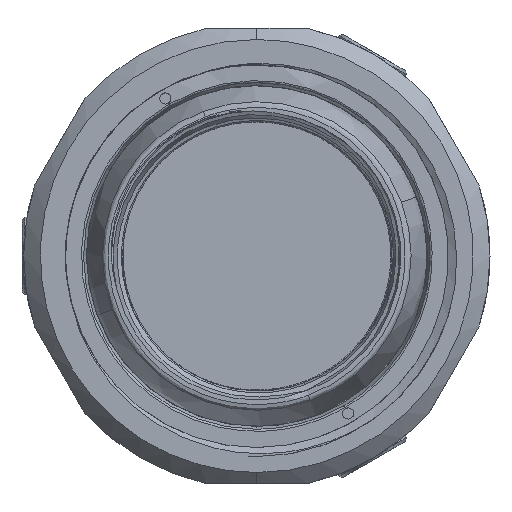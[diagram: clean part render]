
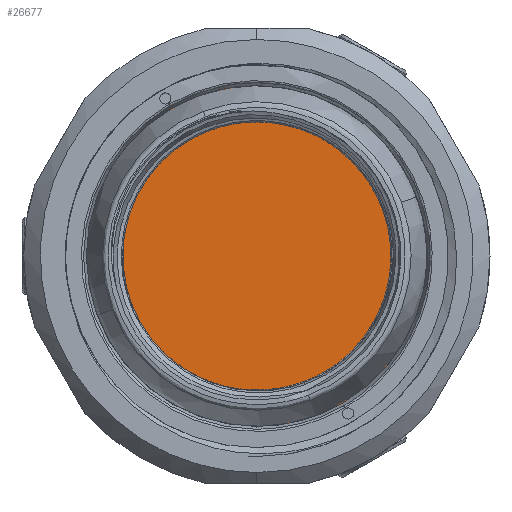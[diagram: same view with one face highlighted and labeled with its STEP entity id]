
A CAD part, front view. The second image highlights one B-rep face of the part: STEP entity #26677.
In plain terms, the highlighted planar face has unit normal (0, -1, 0).
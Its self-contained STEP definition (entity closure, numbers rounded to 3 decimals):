
#645 = DIRECTION ( 'NONE',  ( 0.865, 0., 0.502 ) ) ;
#1168 = PLANE ( 'NONE',  #18307 ) ;
#1274 = DIRECTION ( 'NONE',  ( 0., 1., 0. ) ) ;
#2481 = EDGE_CURVE ( 'NONE', #10049, #15636, #13167, .T. ) ;
#3710 = DIRECTION ( 'NONE',  ( 0., 1., 0. ) ) ;
#8879 = EDGE_LOOP ( 'NONE', ( #10199, #19082 ) ) ;
#10049 = VERTEX_POINT ( 'NONE', #11480 ) ;
#10199 = ORIENTED_EDGE ( 'NONE', *, *, #22815, .F. ) ;
#11480 = CARTESIAN_POINT ( 'NONE',  ( -13.463, 6.337, -7.813 ) ) ;
#13167 = CIRCLE ( 'NONE', #20669, 15.566 ) ;
#13331 = CARTESIAN_POINT ( 'NONE',  ( 0., 6.337, 0. ) ) ;
#14417 = CIRCLE ( 'NONE', #25620, 15.566 ) ;
#15636 = VERTEX_POINT ( 'NONE', #19723 ) ;
#17226 = DIRECTION ( 'NONE',  ( 0., 1., 0. ) ) ;
#18307 = AXIS2_PLACEMENT_3D ( 'NONE', #18483, #1274, #30165 ) ;
#18483 = CARTESIAN_POINT ( 'NONE',  ( 0., 6.337, 0. ) ) ;
#19082 = ORIENTED_EDGE ( 'NONE', *, *, #2481, .F. ) ;
#19723 = CARTESIAN_POINT ( 'NONE',  ( 13.463, 6.337, 7.813 ) ) ;
#20669 = AXIS2_PLACEMENT_3D ( 'NONE', #13331, #3710, #23051 ) ;
#22815 = EDGE_CURVE ( 'NONE', #15636, #10049, #14417, .T. ) ;
#23051 = DIRECTION ( 'NONE',  ( 0.865, 0., 0.502 ) ) ;
#24623 = FACE_OUTER_BOUND ( 'NONE', #8879, .T. ) ;
#25620 = AXIS2_PLACEMENT_3D ( 'NONE', #26957, #17226, #645 ) ;
#26677 = ADVANCED_FACE ( 'NONE', ( #24623 ), #1168, .F. ) ;
#26957 = CARTESIAN_POINT ( 'NONE',  ( 0., 6.337, 0. ) ) ;
#30165 = DIRECTION ( 'NONE',  ( 0., 0., 1. ) ) ;
